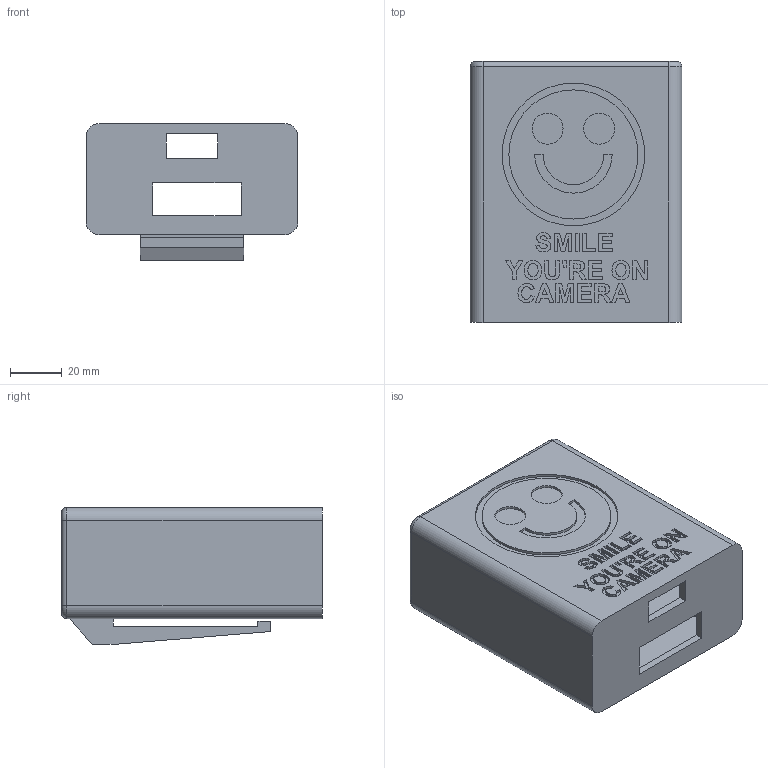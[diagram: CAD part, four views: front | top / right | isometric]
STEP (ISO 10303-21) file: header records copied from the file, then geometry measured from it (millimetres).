
FILE_DESCRIPTION(/* description */ (''),/* implementation_level */ '2;1');
FILE_NAME(/* name */ 'C:/Users/Jared/Desktop/3D_Printing/Body Cam Holder v1.step',/* time_stamp */ '2020-06-01T19:20:21-05:00',/* author */ (''),/* organization */ (''),/* preprocessor_version */ 'ST-DEVELOPER v18.1',/* originating_system */ 'Autodesk Translation Framework v9.3.0.1241',/* authorisation */ '');
FILE_SCHEMA (('AUTOMOTIVE_DESIGN { 1 0 10303 214 3 1 1 }'));
Length unit declared in the file: millimetre
Products named in the file (1): Body Cam Holder
Bounding box: 82 x 101 x 53 mm (x, y, z)
Volume: 141113 mm3; surface area: 71906.4 mm2
Topology: 1 solids, 1 shells, 487 faces, 1317 edges, 872 vertices
Faces by surface type: plane 291, bspline 178, cylinder 14, torus 4
Full cylindrical faces by diameter (mm): 12 x2, 50 x1, 55.298 x1
Entity records: 16808 total; most frequent: CARTESIAN_POINT 5717, ORIENTED_EDGE 2634, DIRECTION 1611, EDGE_CURVE 1317, LINE 923, VECTOR 923, VERTEX_POINT 872, EDGE_LOOP 531
